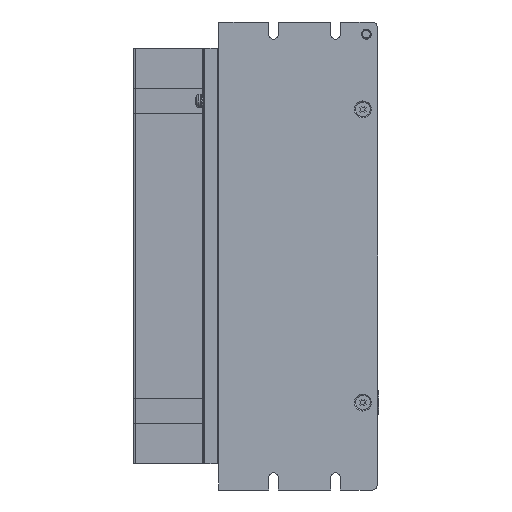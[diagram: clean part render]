
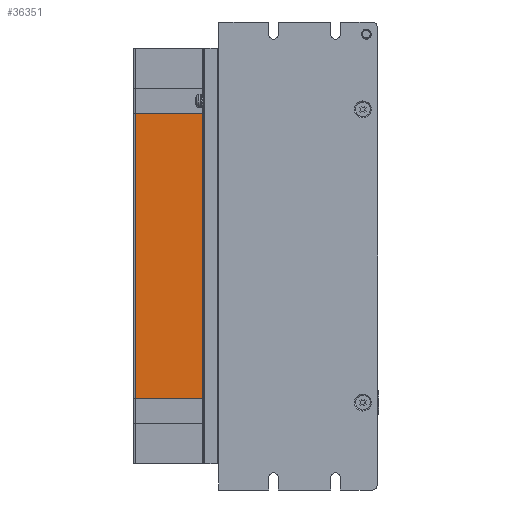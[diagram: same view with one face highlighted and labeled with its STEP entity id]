
A CAD part, front view. The second image highlights one B-rep face of the part: STEP entity #36351.
In plain terms, the highlighted planar face has unit normal (-0.018, -1, 0).
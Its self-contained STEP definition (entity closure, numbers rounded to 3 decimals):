
#3105 = LINE ( 'NONE', #38588, #3107 ) ;
#3107 = VECTOR ( 'NONE', #38790, 1000. ) ;
#3111 = LINE ( 'NONE', #37926, #3121 ) ;
#3112 = LINE ( 'NONE', #37960, #3113 ) ;
#3113 = VECTOR ( 'NONE', #37965, 1000. ) ;
#3121 = VECTOR ( 'NONE', #37930, 1000. ) ;
#3127 = LINE ( 'NONE', #38747, #3128 ) ;
#3128 = VECTOR ( 'NONE', #38569, 1000. ) ;
#6696 = CARTESIAN_POINT ( 'NONE',  ( -104.278, 36.482, -57.372 ) ) ;
#6700 = PLANE ( 'NONE',  #61961 ) ;
#6707 = DIRECTION ( 'NONE',  ( -0.018, -1., 0. ) ) ;
#6708 = DIRECTION ( 'NONE',  ( 1., -0.018, 0. ) ) ;
#21879 = EDGE_CURVE ( 'NONE', #35601, #35944, #3105, .T. ) ;
#21886 = EDGE_CURVE ( 'NONE', #35549, #35956, #3112, .T. ) ;
#21899 = EDGE_CURVE ( 'NONE', #35601, #35956, #3111, .T. ) ;
#21903 = EDGE_CURVE ( 'NONE', #35944, #35549, #3127, .T. ) ;
#29488 = CARTESIAN_POINT ( 'NONE',  ( -104.769, 36.491, 86.128 ) ) ;
#29686 = CARTESIAN_POINT ( 'NONE',  ( -132.242, 36.982, -30.872 ) ) ;
#30674 = CARTESIAN_POINT ( 'NONE',  ( -104.769, 36.491, -30.872 ) ) ;
#30701 = CARTESIAN_POINT ( 'NONE',  ( -132.242, 36.982, 86.128 ) ) ;
#35549 = VERTEX_POINT ( 'NONE', #29488 ) ;
#35601 = VERTEX_POINT ( 'NONE', #29686 ) ;
#35944 = VERTEX_POINT ( 'NONE', #30674 ) ;
#35956 = VERTEX_POINT ( 'NONE', #30701 ) ;
#36351 = ADVANCED_FACE ( 'NONE', ( #57158 ), #6700, .T. ) ;
#37926 = CARTESIAN_POINT ( 'NONE',  ( -132.242, 36.982, -57.372 ) ) ;
#37930 = DIRECTION ( 'NONE',  ( 0., 0., 1. ) ) ;
#37960 = CARTESIAN_POINT ( 'NONE',  ( -104.278, 36.482, 86.128 ) ) ;
#37965 = DIRECTION ( 'NONE',  ( -1., 0.018, 0. ) ) ;
#38569 = DIRECTION ( 'NONE',  ( 0., 0., 1. ) ) ;
#38588 = CARTESIAN_POINT ( 'NONE',  ( -104.278, 36.482, -30.872 ) ) ;
#38747 = CARTESIAN_POINT ( 'NONE',  ( -104.769, 36.491, 112.628 ) ) ;
#38790 = DIRECTION ( 'NONE',  ( 1., -0.018, 0. ) ) ;
#47189 = ORIENTED_EDGE ( 'NONE', *, *, #21903, .T. ) ;
#47191 = ORIENTED_EDGE ( 'NONE', *, *, #21886, .T. ) ;
#47193 = ORIENTED_EDGE ( 'NONE', *, *, #21899, .F. ) ;
#47195 = ORIENTED_EDGE ( 'NONE', *, *, #21879, .T. ) ;
#57158 = FACE_OUTER_BOUND ( 'NONE', #61654, .T. ) ;
#61654 = EDGE_LOOP ( 'NONE', ( #47189, #47191, #47193, #47195 ) ) ;
#61961 = AXIS2_PLACEMENT_3D ( 'NONE', #6696, #6707, #6708 ) ;
